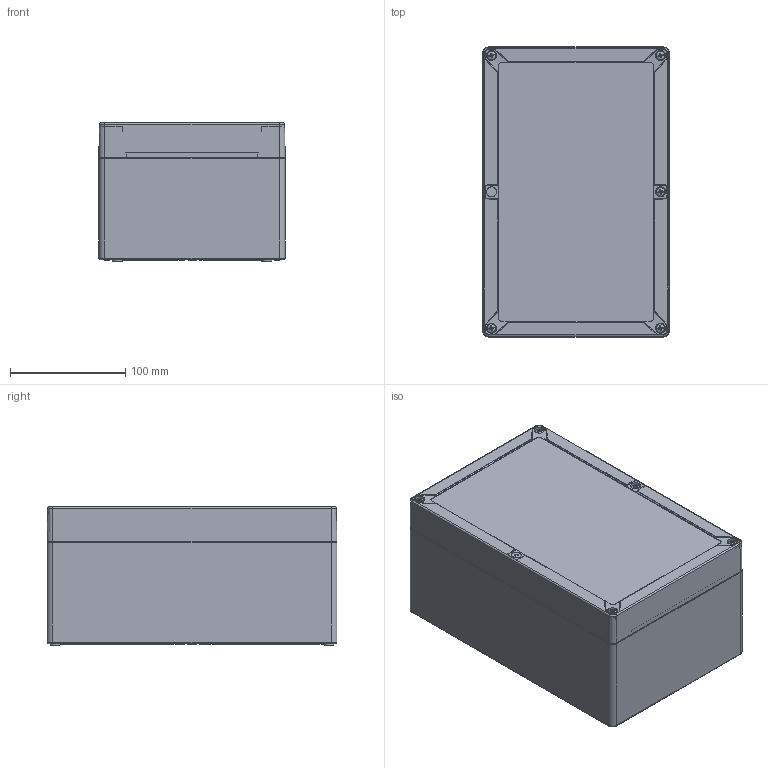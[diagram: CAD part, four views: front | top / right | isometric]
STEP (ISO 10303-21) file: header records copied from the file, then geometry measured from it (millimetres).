
FILE_DESCRIPTION (( 'STEP AP214' ), '1' );
FILE_NAME ('SG-15-03.STEP', '2026-02-27T17:33:28', ( '' ), ( '' ), 'SwSTEP 2.0', 'SolidWorks 2025', '' );
FILE_SCHEMA (( 'AUTOMOTIVE_DESIGN' ));
Length unit declared in the file: inch
Products named in the file (7): SG-97S; SG-15-03; SG-15B_SG-15B-02; SCREWS-022_SCREWS-022; SG-15C_SG-15C-03; SG-KIT-03; SCREWS-019_SCREWS-19
Assembly tree (15 placements, depth 3):
  SG-15-03
    SG-15B_SG-15B-02
    SG-15C_SG-15C-03
    SG-KIT-03
      SCREWS-019_SCREWS-19  x6
      SCREWS-022_SCREWS-022  x4
      SG-97S  x2
Bounding box: 162 x 252 x 120 mm (x, y, z)
Volume: 382765 mm3; surface area: 442112.2 mm2
Topology: 9 solids, 16 shells, 3644 faces, 8990 edges, 5394 vertices
Faces by surface type: plane 1122, cylinder 1113, bspline 686, torus 343, cone 264, sphere 116
Entity records: 87187 total; most frequent: CARTESIAN_POINT 33888, ORIENTED_EDGE 11470, DIRECTION 10715, EDGE_CURVE 5737, AXIS2_PLACEMENT_3D 3942, VERTEX_POINT 3594, VECTOR 2831, LINE 2831
